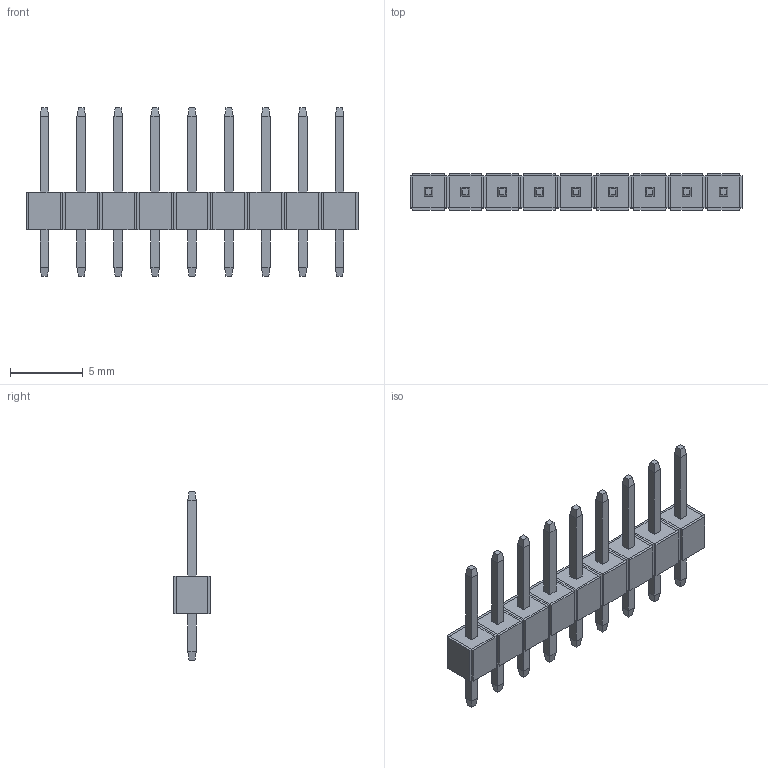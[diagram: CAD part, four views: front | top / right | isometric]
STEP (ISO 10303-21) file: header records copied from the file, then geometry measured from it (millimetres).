
FILE_DESCRIPTION(('FreeCAD Model'),'2;1');
FILE_NAME('Open CASCADE Shape Model','2021-06-29T00:02:07',('Author'),( ''),'Open CASCADE STEP processor 7.5','FreeCAD','Unknown');
FILE_SCHEMA(('AUTOMOTIVE_DESIGN { 1 0 10303 214 1 1 1 1 }'));
Length unit declared in the file: millimetre
Products named in the file (1): Group009
Bounding box: 22.86 x 2.54 x 11.6 mm (x, y, z)
Volume: 176.3 mm3; surface area: 447 mm2
Topology: 1 solids, 1 shells, 344 faces, 724 edges, 400 vertices
Faces by surface type: plane 344
Entity records: 19301 total; most frequent: CARTESIAN_POINT 2989, DIRECTION 2790, LINE 2100, VECTOR 2100, ORIENTED_EDGE 1448, PCURVE 1448, DEFINITIONAL_REPRESENTATION 1448, EDGE_CURVE 724
